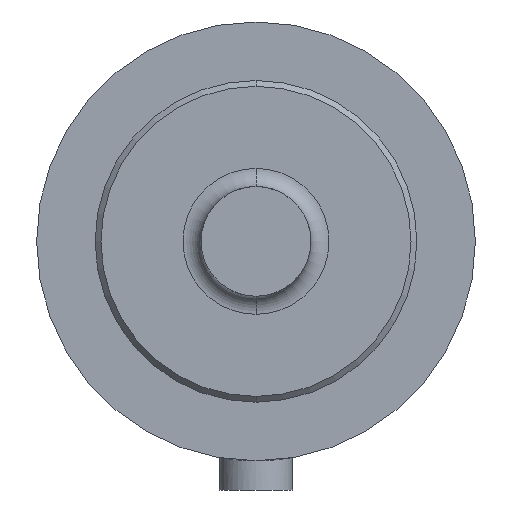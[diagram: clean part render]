
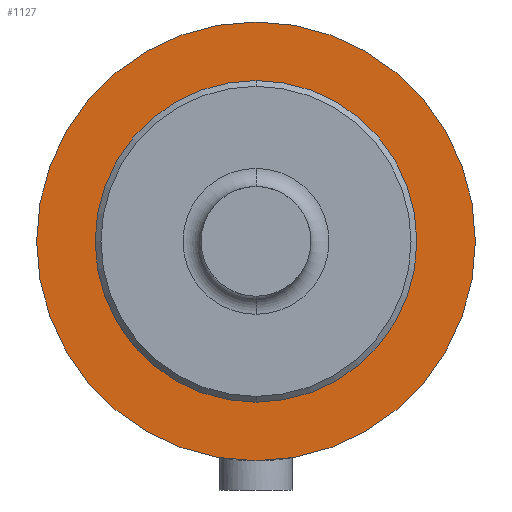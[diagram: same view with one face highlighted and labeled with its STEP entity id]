
A CAD part, front view. The second image highlights one B-rep face of the part: STEP entity #1127.
In plain terms, the highlighted planar face has unit normal (0, -1, 0).
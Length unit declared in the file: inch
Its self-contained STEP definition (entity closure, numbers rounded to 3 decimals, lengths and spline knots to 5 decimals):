
#12 = VERTEX_POINT ( 'NONE', #94 ) ;
#20 = VERTEX_POINT ( 'NONE', #79 ) ;
#46 = VERTEX_POINT ( 'NONE', #103 ) ;
#54 = VERTEX_POINT ( 'NONE', #82 ) ;
#79 = CARTESIAN_POINT ( 'NONE',  ( 0., 0., 0.55 ) ) ;
#82 = CARTESIAN_POINT ( 'NONE',  ( 0., 0., -0.55 ) ) ;
#94 = CARTESIAN_POINT ( 'NONE',  ( 0., 0., 0.75 ) ) ;
#103 = CARTESIAN_POINT ( 'NONE',  ( 0., 0., -0.75 ) ) ;
#198 = CARTESIAN_POINT ( 'NONE',  ( 0., 0., 0. ) ) ;
#222 = DIRECTION ( 'NONE',  ( 0., -1., 0. ) ) ;
#243 = DIRECTION ( 'NONE',  ( 0., 0., 1. ) ) ;
#303 = CARTESIAN_POINT ( 'NONE',  ( 0., 0., 0. ) ) ;
#304 = DIRECTION ( 'NONE',  ( 0., 0., 1. ) ) ;
#328 = DIRECTION ( 'NONE',  ( 0., 1., 0. ) ) ;
#351 = DIRECTION ( 'NONE',  ( 0., 0., 1. ) ) ;
#356 = CARTESIAN_POINT ( 'NONE',  ( 0., 0., 0. ) ) ;
#372 = CARTESIAN_POINT ( 'NONE',  ( 0., 0., 0. ) ) ;
#374 = DIRECTION ( 'NONE',  ( 0., 1., 0. ) ) ;
#375 = DIRECTION ( 'NONE',  ( 0., -1., 0. ) ) ;
#376 = DIRECTION ( 'NONE',  ( 0., 0., 1. ) ) ;
#438 = CARTESIAN_POINT ( 'NONE',  ( 0., 0., 0. ) ) ;
#443 = DIRECTION ( 'NONE',  ( 0., 0., 1. ) ) ;
#449 = PLANE ( 'NONE',  #1083 ) ;
#477 = DIRECTION ( 'NONE',  ( 0., 1., 0. ) ) ;
#541 = CIRCLE ( 'NONE', #1031, 0.75 ) ;
#559 = CIRCLE ( 'NONE', #1075, 0.55 ) ;
#575 = FACE_OUTER_BOUND ( 'NONE', #795, .T. ) ;
#576 = FACE_BOUND ( 'NONE', #828, .T. ) ;
#581 = CIRCLE ( 'NONE', #1050, 0.75 ) ;
#666 = ORIENTED_EDGE ( 'NONE', *, *, #1011, .F. ) ;
#677 = ORIENTED_EDGE ( 'NONE', *, *, #1067, .F. ) ;
#703 = ORIENTED_EDGE ( 'NONE', *, *, #1057, .F. ) ;
#761 = ORIENTED_EDGE ( 'NONE', *, *, #972, .F. ) ;
#795 = EDGE_LOOP ( 'NONE', ( #666, #703 ) ) ;
#828 = EDGE_LOOP ( 'NONE', ( #677, #761 ) ) ;
#917 = CIRCLE ( 'NONE', #1040, 0.55 ) ;
#972 = EDGE_CURVE ( 'NONE', #54, #20, #917, .T. ) ;
#1011 = EDGE_CURVE ( 'NONE', #46, #12, #581, .T. ) ;
#1031 = AXIS2_PLACEMENT_3D ( 'NONE', #372, #374, #351 ) ;
#1040 = AXIS2_PLACEMENT_3D ( 'NONE', #198, #222, #243 ) ;
#1050 = AXIS2_PLACEMENT_3D ( 'NONE', #303, #328, #304 ) ;
#1057 = EDGE_CURVE ( 'NONE', #12, #46, #541, .T. ) ;
#1067 = EDGE_CURVE ( 'NONE', #20, #54, #559, .T. ) ;
#1075 = AXIS2_PLACEMENT_3D ( 'NONE', #356, #375, #376 ) ;
#1083 = AXIS2_PLACEMENT_3D ( 'NONE', #438, #477, #443 ) ;
#1127 = ADVANCED_FACE ( 'NONE', ( #575, #576 ), #449, .F. ) ;
